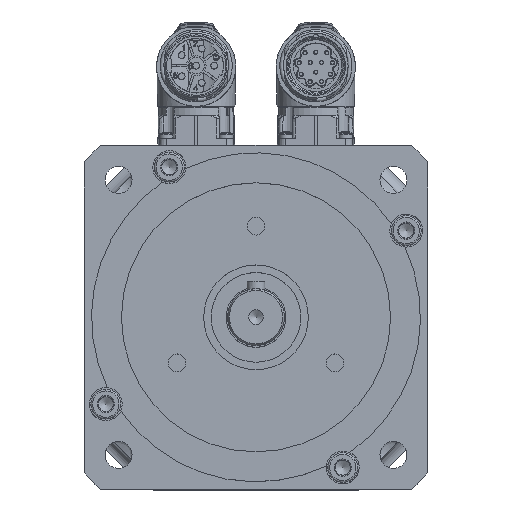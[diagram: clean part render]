
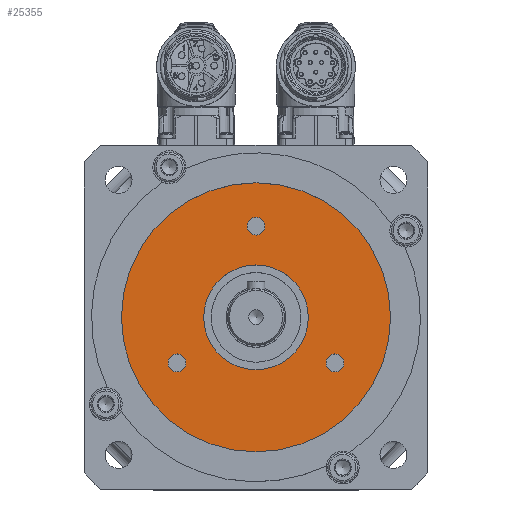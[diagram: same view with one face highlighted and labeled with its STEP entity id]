
A CAD part, top view. The second image highlights one B-rep face of the part: STEP entity #25355.
In plain terms, the highlighted planar face has unit normal (0, 0, 1).
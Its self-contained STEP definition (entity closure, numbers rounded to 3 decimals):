
#5532=PLANE('',#27942);
#6074=FACE_BOUND('',#9843,.T.);
#6075=FACE_BOUND('',#9844,.T.);
#6076=FACE_BOUND('',#9845,.T.);
#6077=FACE_BOUND('',#9846,.T.);
#6078=FACE_BOUND('',#9847,.T.);
#9843=EDGE_LOOP('',(#23568));
#9844=EDGE_LOOP('',(#23569));
#9845=EDGE_LOOP('',(#23570));
#9846=EDGE_LOOP('',(#23571));
#9847=EDGE_LOOP('',(#23572));
#10948=CIRCLE('',#27868,17.5);
#10950=CIRCLE('',#27872,3.);
#10952=CIRCLE('',#27875,3.);
#10954=CIRCLE('',#27878,3.);
#10996=CIRCLE('',#27943,45.);
#13369=VERTEX_POINT('',#51896);
#13371=VERTEX_POINT('',#51902);
#13373=VERTEX_POINT('',#51907);
#13375=VERTEX_POINT('',#51912);
#13421=VERTEX_POINT('',#52035);
#16752=EDGE_CURVE('',#13369,#13369,#10948,.T.);
#16754=EDGE_CURVE('',#13371,#13371,#10950,.T.);
#16756=EDGE_CURVE('',#13373,#13373,#10952,.T.);
#16758=EDGE_CURVE('',#13375,#13375,#10954,.T.);
#16812=EDGE_CURVE('',#13421,#13421,#10996,.T.);
#23568=ORIENTED_EDGE('',*,*,#16752,.T.);
#23569=ORIENTED_EDGE('',*,*,#16754,.T.);
#23570=ORIENTED_EDGE('',*,*,#16756,.T.);
#23571=ORIENTED_EDGE('',*,*,#16758,.T.);
#23572=ORIENTED_EDGE('',*,*,#16812,.F.);
#25355=ADVANCED_FACE('',(#6074,#6075,#6076,#6077,#6078),#5532,.T.);
#27868=AXIS2_PLACEMENT_3D('',#51897,#34065,#34066);
#27872=AXIS2_PLACEMENT_3D('',#51903,#34073,#34074);
#27875=AXIS2_PLACEMENT_3D('',#51908,#34079,#34080);
#27878=AXIS2_PLACEMENT_3D('',#51913,#34085,#34086);
#27942=AXIS2_PLACEMENT_3D('',#52034,#34225,#34226);
#27943=AXIS2_PLACEMENT_3D('',#52036,#34227,#34228);
#34065=DIRECTION('center_axis',(0.,0.,-1.));
#34066=DIRECTION('ref_axis',(-1.,0.,0.));
#34073=DIRECTION('center_axis',(0.,0.,-1.));
#34074=DIRECTION('ref_axis',(-0.5,-0.866,0.));
#34079=DIRECTION('center_axis',(0.,0.,-1.));
#34080=DIRECTION('ref_axis',(-0.5,0.866,0.));
#34085=DIRECTION('center_axis',(0.,0.,-1.));
#34086=DIRECTION('ref_axis',(1.,0.,0.));
#34225=DIRECTION('center_axis',(0.,0.,1.));
#34226=DIRECTION('ref_axis',(1.,0.,0.));
#34227=DIRECTION('center_axis',(0.,0.,-1.));
#34228=DIRECTION('ref_axis',(-1.,0.,0.));
#51896=CARTESIAN_POINT('',(17.5,0.,11.5));
#51897=CARTESIAN_POINT('Origin',(0.,0.,11.5));
#51902=CARTESIAN_POINT('',(24.914,-17.848,11.5));
#51903=CARTESIAN_POINT('Origin',(26.414,-15.25,11.5));
#51907=CARTESIAN_POINT('',(-27.914,-12.652,11.5));
#51908=CARTESIAN_POINT('Origin',(-26.414,-15.25,11.5));
#51912=CARTESIAN_POINT('',(3.,30.5,11.5));
#51913=CARTESIAN_POINT('Origin',(0.,30.5,11.5));
#52034=CARTESIAN_POINT('Origin',(0.,0.,
11.5));
#52035=CARTESIAN_POINT('',(45.,0.,11.5));
#52036=CARTESIAN_POINT('Origin',(0.,0.,11.5));
